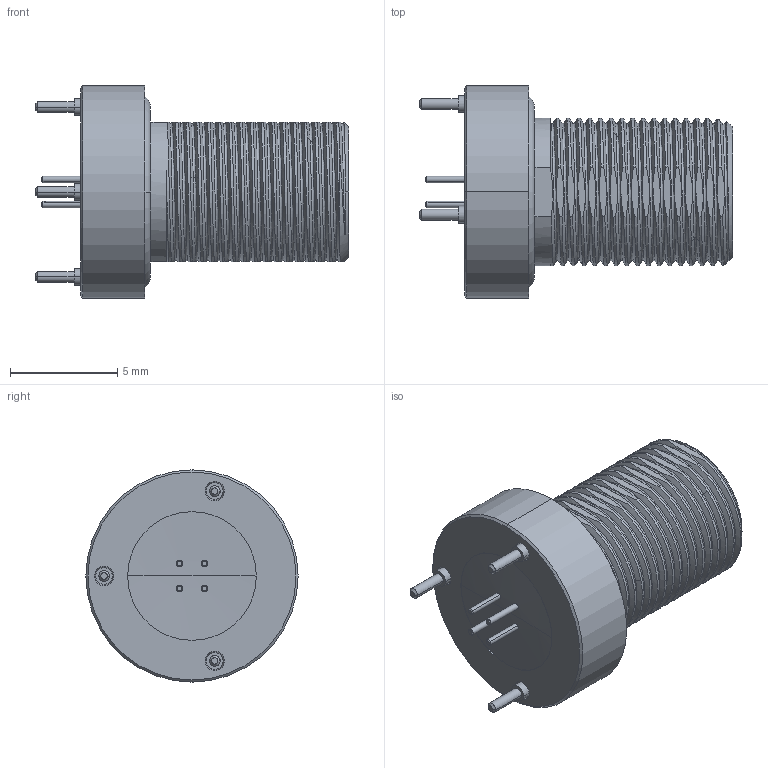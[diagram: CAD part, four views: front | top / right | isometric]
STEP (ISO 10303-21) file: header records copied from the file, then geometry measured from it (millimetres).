
FILE_DESCRIPTION((''),'2;1');
FILE_NAME('00160179--_ASM','2020-10-29T07:10:34',('EUnterhaslberger'),(''),'CREO PARAMETRIC BY PTC INC, 2018300','CREO PARAMETRIC BY PTC INC, 2018300','');
FILE_SCHEMA(('AP242_MANAGED_MODEL_BASED_3D_ENGINEERING_MIM_LF { 1 0 10303 442 1 1 4 }'));
Length unit declared in the file: millimetre
Products named in the file (4): TEMP_SW_STEP_MONOBLOCK_1_1; TEMP_SW_STEP_MONOBLOCK_1_2; TEMP_SW_STEP_MONOBLOCK_1_ASM; 00160179--_ASM
Assembly tree (3 placements, depth 3):
  00160179--_ASM
    TEMP_SW_STEP_MONOBLOCK_1_ASM
      TEMP_SW_STEP_MONOBLOCK_1_1
      TEMP_SW_STEP_MONOBLOCK_1_2
Bounding box: 14.6 x 9.9 x 9.9 mm (x, y, z)
Volume: 438.6 mm3; surface area: 839.5 mm2
Topology: 2 solids, 2 shells, 291 faces, 758 edges, 499 vertices
Faces by surface type: plane 108, cylinder 102, cone 38, bspline 21, torus 19, sphere 3
Entity records: 24123 total; most frequent: CARTESIAN_POINT 14994, ORIENTED_EDGE 1512, DIRECTION 1354, EDGE_CURVE 756, AXIS2_PLACEMENT_3D 543, VERTEX_POINT 499, EDGE_LOOP 323, FACE_OUTER_BOUND 291
